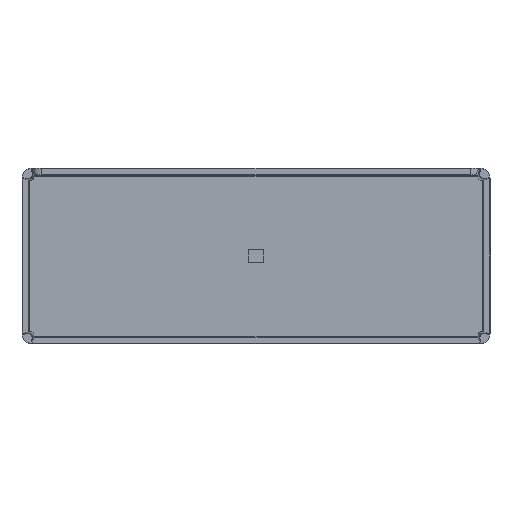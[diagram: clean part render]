
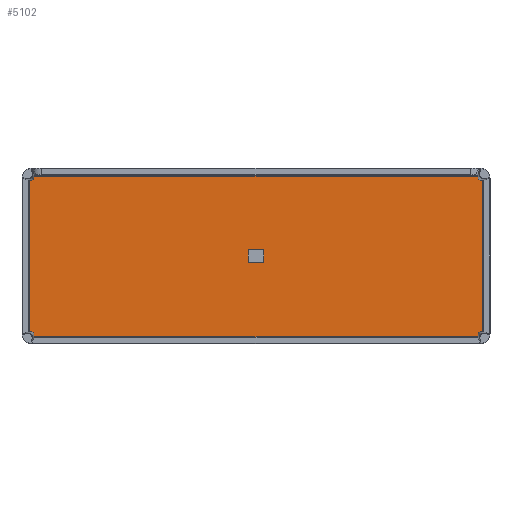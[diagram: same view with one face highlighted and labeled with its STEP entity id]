
A CAD part, front view. The second image highlights one B-rep face of the part: STEP entity #5102.
In plain terms, the highlighted planar face has unit normal (0, -1, 0).
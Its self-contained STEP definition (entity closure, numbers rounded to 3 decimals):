
#125 = ORIENTED_EDGE ( 'NONE', *, *, #2811, .T. ) ;
#193 = EDGE_CURVE ( 'NONE', #8571, #7615, #1984, .T. ) ;
#261 = LINE ( 'NONE', #7991, #1146 ) ;
#415 = AXIS2_PLACEMENT_3D ( 'NONE', #3472, #4228, #6341 ) ;
#533 = DIRECTION ( 'NONE',  ( -1., 0., 0. ) ) ;
#561 = CARTESIAN_POINT ( 'NONE',  ( 17.25, 660.75, 16. ) ) ;
#574 = DIRECTION ( 'NONE',  ( 0., 1., 0. ) ) ;
#575 = EDGE_CURVE ( 'NONE', #6281, #3679, #7544, .T. ) ;
#578 = CIRCLE ( 'NONE', #415, 2.75 ) ;
#655 = CARTESIAN_POINT ( 'NONE',  ( -994.947, 660.75, 205.5 ) ) ;
#700 = FACE_OUTER_BOUND ( 'NONE', #7257, .T. ) ;
#718 = CARTESIAN_POINT ( 'NONE',  ( -17.25, 660.75, 13.25 ) ) ;
#792 = ORIENTED_EDGE ( 'NONE', *, *, #193, .T. ) ;
#842 = CARTESIAN_POINT ( 'NONE',  ( -582., 660.75, -194.467 ) ) ;
#870 = DIRECTION ( 'NONE',  ( 1., 0., 0. ) ) ;
#1039 = VECTOR ( 'NONE', #8159, 1000. ) ;
#1112 = ORIENTED_EDGE ( 'NONE', *, *, #575, .T. ) ;
#1121 = EDGE_CURVE ( 'NONE', #7214, #7615, #6729, .T. ) ;
#1146 = VECTOR ( 'NONE', #8876, 1000. ) ;
#1173 = B_SPLINE_CURVE_WITH_KNOTS ( 'NONE', 3,
 ( #4658, #1248, #6218, #4014 ),
 .UNSPECIFIED., .F., .F.,
 ( 4, 4 ),
 ( 0.253, 0.747 ),
 .UNSPECIFIED. ) ;
#1191 = CARTESIAN_POINT ( 'NONE',  ( -569.271, 660.75, 204.793 ) ) ;
#1248 = CARTESIAN_POINT ( 'NONE',  ( 572.663, 660.75, -193.201 ) ) ;
#1281 = ORIENTED_EDGE ( 'NONE', *, *, #9012, .T. ) ;
#1403 = CARTESIAN_POINT ( 'NONE',  ( -582., 660.75, 205.5 ) ) ;
#1416 = CARTESIAN_POINT ( 'NONE',  ( 17.25, 660.75, -16. ) ) ;
#1452 = CARTESIAN_POINT ( 'NONE',  ( -569.467, 660.75, -207. ) ) ;
#1462 = LINE ( 'NONE', #1602, #6735 ) ;
#1467 = CARTESIAN_POINT ( 'NONE',  ( -569.467, 660.75, -207. ) ) ;
#1602 = CARTESIAN_POINT ( 'NONE',  ( 20., 660.75, 205.5 ) ) ;
#1772 = VECTOR ( 'NONE', #3416, 1000. ) ;
#1916 = CIRCLE ( 'NONE', #3126, 2.75 ) ;
#1981 = DIRECTION ( 'NONE',  ( 1., 0., 0. ) ) ;
#1984 = LINE ( 'NONE', #7074, #5190 ) ;
#2103 = CARTESIAN_POINT ( 'NONE',  ( -20., 660.75, 13.25 ) ) ;
#2171 = CARTESIAN_POINT ( 'NONE',  ( 569.271, 660.75, 204.793 ) ) ;
#2211 = VERTEX_POINT ( 'NONE', #7237 ) ;
#2216 = ORIENTED_EDGE ( 'NONE', *, *, #5146, .T. ) ;
#2255 = CARTESIAN_POINT ( 'NONE',  ( -572.663, 660.75, -193.201 ) ) ;
#2293 = EDGE_CURVE ( 'NONE', #2211, #8111, #8333, .T. ) ;
#2564 = CARTESIAN_POINT ( 'NONE',  ( 20., 660.75, -13.25 ) ) ;
#2693 = CARTESIAN_POINT ( 'NONE',  ( -994.947, 660.75, 16. ) ) ;
#2803 = CARTESIAN_POINT ( 'NONE',  ( 569.271, 660.75, 204.793 ) ) ;
#2811 = EDGE_CURVE ( 'NONE', #5705, #5009, #1462, .T. ) ;
#2871 = B_SPLINE_CURVE_WITH_KNOTS ( 'NONE', 3,
 ( #5742, #8614, #6348, #2171 ),
 .UNSPECIFIED., .F., .F.,
 ( 4, 4 ),
 ( 0.253, 0.707 ),
 .UNSPECIFIED. ) ;
#2880 = DIRECTION ( 'NONE',  ( 0., 1., 0. ) ) ;
#2895 = CIRCLE ( 'NONE', #6496, 2.75 ) ;
#3020 = EDGE_LOOP ( 'NONE', ( #2216, #6439, #1112, #5929, #6755, #9241, #125, #8119 ) ) ;
#3024 = VERTEX_POINT ( 'NONE', #7624 ) ;
#3126 = AXIS2_PLACEMENT_3D ( 'NONE', #6315, #5566, #7776 ) ;
#3195 = CARTESIAN_POINT ( 'NONE',  ( -582., 660.75, 194.467 ) ) ;
#3252 = EDGE_CURVE ( 'NONE', #6784, #5705, #1916, .T. ) ;
#3338 = ORIENTED_EDGE ( 'NONE', *, *, #3958, .F. ) ;
#3414 = EDGE_CURVE ( 'NONE', #7895, #6784, #3479, .T. ) ;
#3416 = DIRECTION ( 'NONE',  ( 0., 0., -1. ) ) ;
#3472 = CARTESIAN_POINT ( 'NONE',  ( 17.25, 660.75, -13.25 ) ) ;
#3479 = LINE ( 'NONE', #2693, #6891 ) ;
#3506 = DIRECTION ( 'NONE',  ( 0., 0., -1. ) ) ;
#3655 = DIRECTION ( 'NONE',  ( 0., -1., 0. ) ) ;
#3679 = VERTEX_POINT ( 'NONE', #2103 ) ;
#3958 = EDGE_CURVE ( 'NONE', #6078, #3024, #1173, .T. ) ;
#3975 = CARTESIAN_POINT ( 'NONE',  ( -20., 660.75, 205.5 ) ) ;
#4014 = CARTESIAN_POINT ( 'NONE',  ( 569.467, 660.75, -207. ) ) ;
#4088 = DIRECTION ( 'NONE',  ( 0., 0., -1. ) ) ;
#4153 = ORIENTED_EDGE ( 'NONE', *, *, #6831, .T. ) ;
#4186 = EDGE_CURVE ( 'NONE', #8111, #3024, #6695, .T. ) ;
#4228 = DIRECTION ( 'NONE',  ( 0., 1., 0. ) ) ;
#4236 = EDGE_CURVE ( 'NONE', #9232, #6078, #4563, .T. ) ;
#4317 = DIRECTION ( 'NONE',  ( 0., 0., -1. ) ) ;
#4514 = CARTESIAN_POINT ( 'NONE',  ( -994.947, 660.75, -207. ) ) ;
#4563 = LINE ( 'NONE', #8762, #1039 ) ;
#4658 = CARTESIAN_POINT ( 'NONE',  ( 582., 660.75, -194.467 ) ) ;
#5009 = VERTEX_POINT ( 'NONE', #2564 ) ;
#5102 = ADVANCED_FACE ( 'NONE', ( #700, #5771 ), #8642, .T. ) ;
#5124 = CARTESIAN_POINT ( 'NONE',  ( -17.25, 660.75, 16. ) ) ;
#5146 = EDGE_CURVE ( 'NONE', #6643, #6980, #261, .T. ) ;
#5190 = VECTOR ( 'NONE', #533, 1000. ) ;
#5311 = ORIENTED_EDGE ( 'NONE', *, *, #4186, .T. ) ;
#5566 = DIRECTION ( 'NONE',  ( 0., 1., 0. ) ) ;
#5705 = VERTEX_POINT ( 'NONE', #6390 ) ;
#5741 = DIRECTION ( 'NONE',  ( 0., 0., -1. ) ) ;
#5742 = CARTESIAN_POINT ( 'NONE',  ( 582., 660.75, 194.467 ) ) ;
#5771 = FACE_BOUND ( 'NONE', #3020, .T. ) ;
#5909 = DIRECTION ( 'NONE',  ( 0., 0., 1. ) ) ;
#5929 = ORIENTED_EDGE ( 'NONE', *, *, #8145, .T. ) ;
#5955 = CARTESIAN_POINT ( 'NONE',  ( -568.201, 660.75, -197.663 ) ) ;
#6058 = CARTESIAN_POINT ( 'NONE',  ( -573.432, 660.75, 193.305 ) ) ;
#6078 = VERTEX_POINT ( 'NONE', #8467 ) ;
#6104 = CIRCLE ( 'NONE', #9261, 2.75 ) ;
#6136 = EDGE_CURVE ( 'NONE', #6980, #6281, #6104, .T. ) ;
#6218 = CARTESIAN_POINT ( 'NONE',  ( 568.201, 660.75, -197.663 ) ) ;
#6281 = VERTEX_POINT ( 'NONE', #6684 ) ;
#6315 = CARTESIAN_POINT ( 'NONE',  ( 17.25, 660.75, 13.25 ) ) ;
#6339 = ORIENTED_EDGE ( 'NONE', *, *, #2293, .T. ) ;
#6341 = DIRECTION ( 'NONE',  ( 0., 0., -1. ) ) ;
#6348 = CARTESIAN_POINT ( 'NONE',  ( 568.969, 660.75, 196.967 ) ) ;
#6390 = CARTESIAN_POINT ( 'NONE',  ( 20., 660.75, 13.25 ) ) ;
#6439 = ORIENTED_EDGE ( 'NONE', *, *, #6136, .T. ) ;
#6496 = AXIS2_PLACEMENT_3D ( 'NONE', #718, #2880, #5741 ) ;
#6533 = EDGE_CURVE ( 'NONE', #5009, #6643, #578, .T. ) ;
#6565 = AXIS2_PLACEMENT_3D ( 'NONE', #655, #3655, #3506 ) ;
#6643 = VERTEX_POINT ( 'NONE', #1416 ) ;
#6684 = CARTESIAN_POINT ( 'NONE',  ( -20., 660.75, -13.25 ) ) ;
#6695 = LINE ( 'NONE', #4514, #7493 ) ;
#6729 = B_SPLINE_CURVE_WITH_KNOTS ( 'NONE', 3,
 ( #3195, #6058, #8927, #7098 ),
 .UNSPECIFIED., .F., .F.,
 ( 4, 4 ),
 ( 0.253, 0.707 ),
 .UNSPECIFIED. ) ;
#6735 = VECTOR ( 'NONE', #4317, 1000. ) ;
#6741 = ORIENTED_EDGE ( 'NONE', *, *, #4236, .F. ) ;
#6755 = ORIENTED_EDGE ( 'NONE', *, *, #3414, .T. ) ;
#6784 = VERTEX_POINT ( 'NONE', #561 ) ;
#6831 = EDGE_CURVE ( 'NONE', #7214, #2211, #7054, .T. ) ;
#6863 = CARTESIAN_POINT ( 'NONE',  ( -17.25, 660.75, -13.25 ) ) ;
#6891 = VECTOR ( 'NONE', #1981, 1000. ) ;
#6980 = VERTEX_POINT ( 'NONE', #7505 ) ;
#7054 = LINE ( 'NONE', #1403, #1772 ) ;
#7074 = CARTESIAN_POINT ( 'NONE',  ( -994.947, 660.75, 204.793 ) ) ;
#7098 = CARTESIAN_POINT ( 'NONE',  ( -569.271, 660.75, 204.793 ) ) ;
#7214 = VERTEX_POINT ( 'NONE', #8260 ) ;
#7237 = CARTESIAN_POINT ( 'NONE',  ( -582., 660.75, -194.467 ) ) ;
#7257 = EDGE_LOOP ( 'NONE', ( #1281, #792, #7659, #4153, #6339, #5311, #3338, #6741 ) ) ;
#7427 = CARTESIAN_POINT ( 'NONE',  ( 582., 660.75, 194.467 ) ) ;
#7493 = VECTOR ( 'NONE', #870, 1000. ) ;
#7505 = CARTESIAN_POINT ( 'NONE',  ( -17.25, 660.75, -16. ) ) ;
#7544 = LINE ( 'NONE', #3975, #8659 ) ;
#7615 = VERTEX_POINT ( 'NONE', #1191 ) ;
#7624 = CARTESIAN_POINT ( 'NONE',  ( 569.467, 660.75, -207. ) ) ;
#7659 = ORIENTED_EDGE ( 'NONE', *, *, #1121, .F. ) ;
#7776 = DIRECTION ( 'NONE',  ( 0., 0., -1. ) ) ;
#7895 = VERTEX_POINT ( 'NONE', #5124 ) ;
#7991 = CARTESIAN_POINT ( 'NONE',  ( -994.947, 660.75, -16. ) ) ;
#8111 = VERTEX_POINT ( 'NONE', #1467 ) ;
#8119 = ORIENTED_EDGE ( 'NONE', *, *, #6533, .T. ) ;
#8145 = EDGE_CURVE ( 'NONE', #3679, #7895, #2895, .T. ) ;
#8159 = DIRECTION ( 'NONE',  ( 0., 0., -1. ) ) ;
#8260 = CARTESIAN_POINT ( 'NONE',  ( -582., 660.75, 194.467 ) ) ;
#8333 = B_SPLINE_CURVE_WITH_KNOTS ( 'NONE', 3,
 ( #842, #2255, #5955, #1452 ),
 .UNSPECIFIED., .F., .F.,
 ( 4, 4 ),
 ( 0.253, 0.747 ),
 .UNSPECIFIED. ) ;
#8467 = CARTESIAN_POINT ( 'NONE',  ( 582., 660.75, -194.467 ) ) ;
#8571 = VERTEX_POINT ( 'NONE', #2803 ) ;
#8614 = CARTESIAN_POINT ( 'NONE',  ( 573.432, 660.75, 193.305 ) ) ;
#8642 = PLANE ( 'NONE',  #6565 ) ;
#8659 = VECTOR ( 'NONE', #5909, 1000. ) ;
#8762 = CARTESIAN_POINT ( 'NONE',  ( 582., 660.75, 205.5 ) ) ;
#8876 = DIRECTION ( 'NONE',  ( -1., 0., 0. ) ) ;
#8927 = CARTESIAN_POINT ( 'NONE',  ( -568.969, 660.75, 196.967 ) ) ;
#9012 = EDGE_CURVE ( 'NONE', #9232, #8571, #2871, .T. ) ;
#9232 = VERTEX_POINT ( 'NONE', #7427 ) ;
#9241 = ORIENTED_EDGE ( 'NONE', *, *, #3252, .T. ) ;
#9261 = AXIS2_PLACEMENT_3D ( 'NONE', #6863, #574, #4088 ) ;
